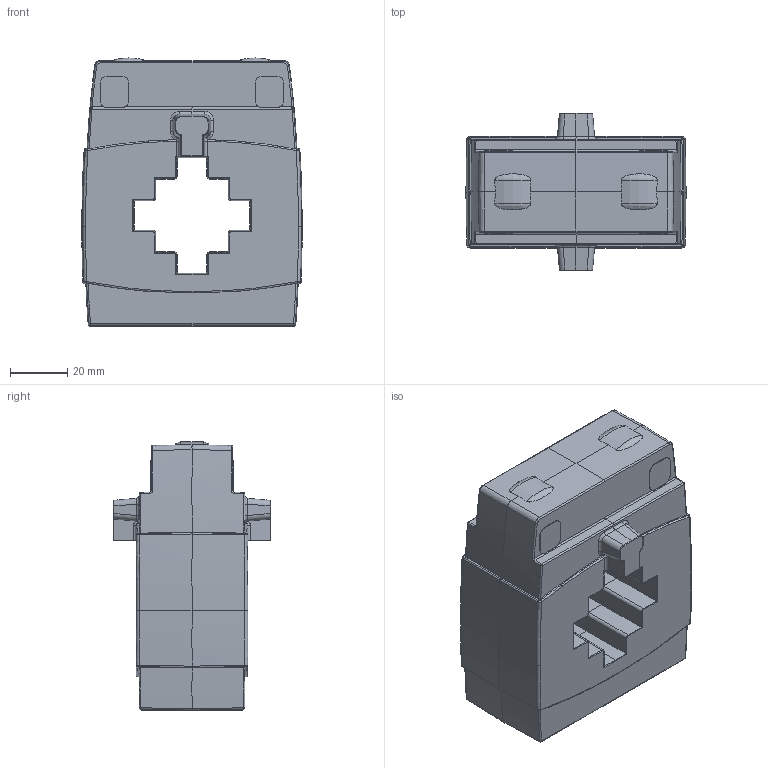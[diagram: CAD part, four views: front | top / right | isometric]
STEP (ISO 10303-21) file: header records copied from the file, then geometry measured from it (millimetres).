
FILE_DESCRIPTION(/* description */ (''),/* implementation_level */ '2;1');
FILE_NAME(/* name */ 'ENT.A40.stp',/* time_stamp */ '2021-03-18T11:39:41+03:00',/* author */ (''),/* organization */ (''),/* preprocessor_version */ 'ST-DEVELOPER v16',/* originating_system */ 'SIEMENS PLM Software NX 11.0',/* authorisation */ '');
FILE_SCHEMA (('AUTOMOTIVE_DESIGN { 1 0 10303 214 3 1 1 1 }'));
Length unit declared in the file: millimetre
Products named in the file (1): ENT.A40
Bounding box: 77.01 x 55 x 93.73 mm (x, y, z)
Volume: 215555.2 mm3; surface area: 30579.4 mm2
Topology: 1 solids, 1 shells, 415 faces, 997 edges, 578 vertices
Faces by surface type: cylinder 140, plane 127, bspline 88, torus 28, cone 20, sphere 12
Entity records: 13922 total; most frequent: CARTESIAN_POINT 4797, ORIENTED_EDGE 1978, DIRECTION 1835, EDGE_CURVE 989, AXIS2_PLACEMENT_3D 699, VERTEX_POINT 578, LINE 437, VECTOR 437
